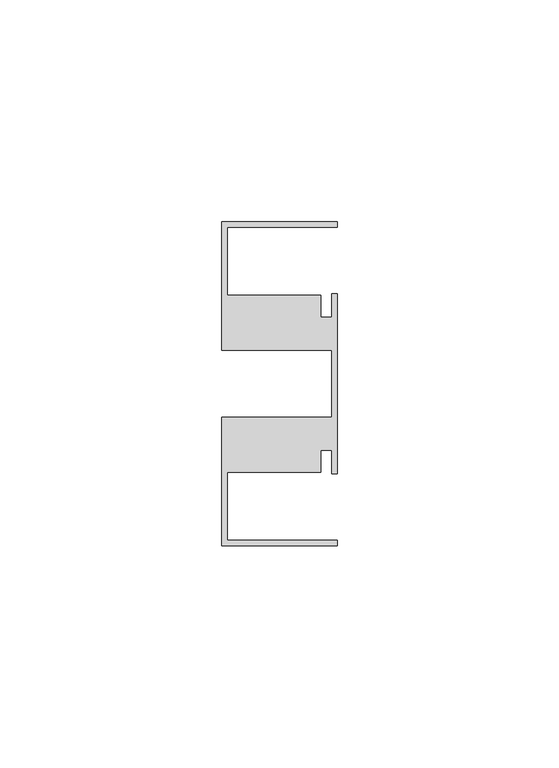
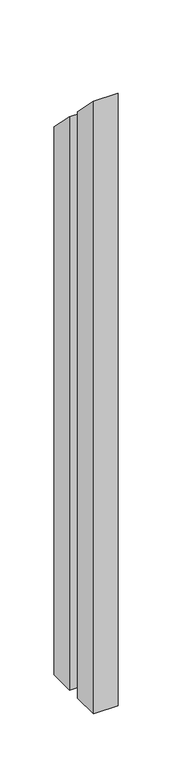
"""IFC4 building model written with IfcOpenShell, lengths in millimetres: member geometry, Прямоугольный импост : 9-AMG-1-Профиль 26Х73 Низ Л."""

from ifc_helpers import new_model, si_unit, origin, place, context, project, spatial, faceted_brep, source, transform, mapped, element, save


def member_dfd8db85(model_context):
    return source(origin(), model_context, "Body", "Brep", [
        faceted_brep([(-26.0, -36.5, -654.0), (-26.0, -7.5116043, -654.0), (-1.2, -7.5116043, -654.0), (-1.2, 7.5116043, -654.0), (-26.0, 7.5116043, -654.0), (-26.0, 36.5, -654.0), (0.0, 36.5, -654.0), (0.0, 35.3, -654.0), (-24.8, 35.3, -654.0), (-24.8, 20.0, -654.0), (-3.7, 20.0, -654.0), (-3.7, 14.95, -654.0), (-1.2, 14.95, -654.0), (-1.2, 20.3007529, -654.0), (0.0, 20.3007529, -654.0), (0.0, -20.3007529, -654.0), (-1.2, -20.3007529, -654.0), (-1.2, -14.95, -654.0), (-3.7, -14.95, -654.0), (-3.7, -20.0, -654.0), (-24.8, -20.0, -654.0), (-24.8, -35.3, -654.0), (0.0, -35.3, -654.0), (0.0, -36.5, -654.0), (0.0, -36.5, 36.5), (-26.0, -36.5, 36.5), (0.0, -35.3, 35.3), (-24.8, -35.3, 35.3), (-24.8, -20.0, 20.0), (-3.7, -20.0, 20.0), (-3.7, -14.95, 14.95), (-1.2, -14.95, 14.95), (-1.2, -20.3007529, 20.3007529), (0.0, -20.3007529, 20.3007529), (0.0, 20.3007529, -20.3007529), (-1.2, 20.3007529, -20.3007529), (-1.2, 14.95, -14.95), (-3.7, 14.95, -14.95), (-3.7, 20.0, -20.0), (-24.8, 20.0, -20.0), (-24.8, 35.3, -35.3), (0.0, 35.3, -35.3), (0.0, 36.5, -36.5), (-26.0, 36.5, -36.5), (-26.0, 7.5116043, -7.5116043), (-1.2, 7.5116043, -7.5116043), (-1.2, -7.5116043, 7.5116043), (-26.0, -7.5116043, 7.5116043)], [[[0, 1, 2, 3, 4, 5, 6, 7, 8, 9, 10, 11, 12, 13, 14, 15, 16, 17, 18, 19, 20, 21, 22, 23]], [[24, 25, 0, 23]], [[26, 24, 23, 22]], [[27, 26, 22, 21]], [[28, 27, 21, 20]], [[29, 28, 20, 19]], [[30, 29, 19, 18]], [[31, 30, 18, 17]], [[32, 31, 17, 16]], [[33, 32, 16, 15]], [[34, 33, 15, 14]], [[35, 34, 14, 13]], [[36, 35, 13, 12]], [[37, 36, 12, 11]], [[38, 37, 11, 10]], [[39, 38, 10, 9]], [[40, 39, 9, 8]], [[41, 40, 8, 7]], [[42, 41, 7, 6]], [[43, 42, 6, 5]], [[44, 43, 5, 4]], [[45, 44, 4, 3]], [[46, 45, 3, 2]], [[47, 46, 2, 1]], [[25, 47, 1, 0]], [[25, 24, 26, 27, 28, 29, 30, 31, 32, 33, 34, 35, 36, 37, 38, 39, 40, 41, 42, 43, 44, 45, 46, 47]]]),
    ])


if __name__ == "__main__":
    model = new_model("IFC4")
    model_context = context("Model", 3, world=origin())
    ifc_project = project(units=[si_unit("LENGTHUNIT", "METRE", prefix="MILLI")], contexts=[model_context])
    site = spatial("IfcSite", under=ifc_project)
    building = spatial("IfcBuilding", under=site)
    placement = place(None, origin())
    member_shape = member_dfd8db85(model_context)
    element("IfcMember", 1, ObjectType="Прямоугольный импост : 9-AMG-1-Профиль 26Х73 Низ Л", at=placement, inside=building, context=model_context, shape_type="MappedRepresentation", body=[
        mapped(member_shape, transform((0.0, 0.0, 0.0), x_axis=(1.0, 0.0, 0.0), y_axis=(0.0, 1.0, 0.0), z_axis=(0.0, 0.0, 1.0))),
    ])
    save(model, "model.ifc")
